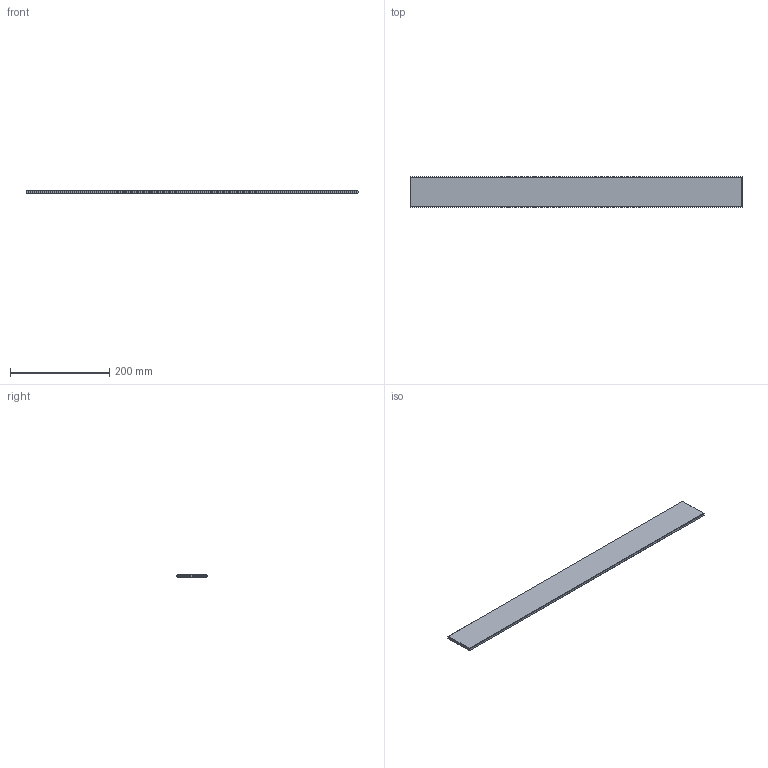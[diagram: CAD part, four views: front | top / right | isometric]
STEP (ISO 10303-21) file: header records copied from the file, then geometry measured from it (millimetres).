
FILE_DESCRIPTION((''),'2;1');
FILE_NAME('238471-HI','2023-01-30T08:32:48',('1ke04'),('Kesseboehmer'),'CREO PARAMETRIC BY PTC INC, 2020414','CREO PARAMETRIC BY PTC INC, 2020414','');
FILE_SCHEMA(('AUTOMOTIVE_DESIGN { 1 0 10303 214 1 1 1 1 }'));
Length unit declared in the file: millimetre
Products named in the file (1): 238471-HI
Bounding box: 669 x 61 x 6 mm (x, y, z)
Volume: 243396.7 mm3; surface area: 88664.2 mm2
Topology: 1 solids, 1 shells, 14 faces, 28 edges, 16 vertices
Faces by surface type: plane 14
Entity records: 966 total; most frequent: COLOUR_RGB 194, DIRECTION 81, CARTESIAN_POINT 76, ORIENTED_EDGE 56, PROPERTY_DEFINITION 39, REPRESENTATION 38, PROPERTY_DEFINITION_REPRESENTATION 38, PRESENTATION_STYLE_ASSIGNMENT 32
